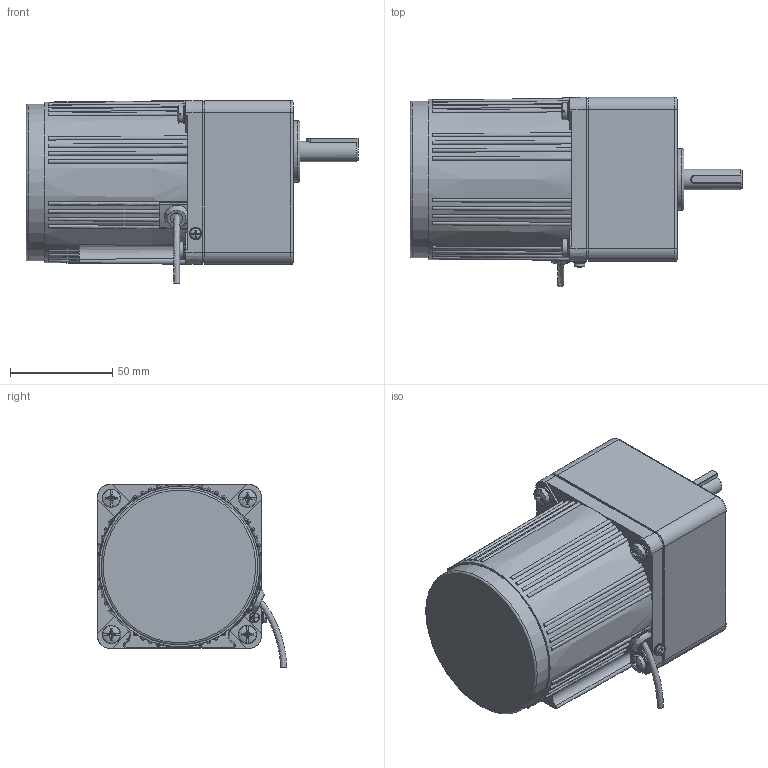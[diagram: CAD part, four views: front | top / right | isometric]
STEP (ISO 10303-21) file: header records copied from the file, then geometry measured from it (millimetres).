
FILE_DESCRIPTION(/* description */ (''),/* implementation_level */ '2;1');
FILE_NAME(/* name */ '4RK25-30CC-4GN25-750K-C·10L.stp',/* time_stamp */ '2024-11-02T14:02:42+08:00',/* author */ (''),/* organization */ (''),/* preprocessor_version */ 'ST-DEVELOPER v18.102',/* originating_system */ 'SIEMENS PLM Software NX 2027',/* authorisation */ '');
FILE_SCHEMA (('AP203_CONFIGURATION_CONTROLLED_3D_DESIGN_OF_MECHANICAL_PARTS_AND_ASSEMBLIES_MIM_LF { 1 0 10303 403 2 1 2}'));
Length unit declared in the file: millimetre
Products named in the file (1): 4GN25K-C·10T_stp_objects
Bounding box: 162 x 92.25 x 89.33 mm (x, y, z)
Volume: 710828.5 mm3; surface area: 81385.1 mm2
Topology: 8 solids, 9 shells, 763 faces, 1986 edges, 1297 vertices
Faces by surface type: plane 257, bspline 236, cylinder 140, cone 68, torus 43, sphere 14, revolution 5
Full cylindrical faces by diameter (mm): 2.6 x1, 2.7 x1, 3.2 x1, 4 x5, 4.2 x8, 4.4 x1, 4.6 x4, 5 x5, 5.1 x1, 5.3 x4, 6 x6, 6.5 x4, 8.2 x1, 8.5 x4, 9 x4, 10 x1, 10.5 x1, 19 x1, 26 x1, 30 x1, 56 x1, 67 x1, 73 x1, 75 x2, 76.5 x1, 77.5 x1
Entity records: 29329 total; most frequent: CARTESIAN_POINT 13577, ORIENTED_EDGE 3608, DIRECTION 2299, EDGE_CURVE 1804, VERTEX_POINT 1224, B_SPLINE_CURVE_WITH_KNOTS 989, AXIS2_PLACEMENT_3D 955, EDGE_LOOP 951
